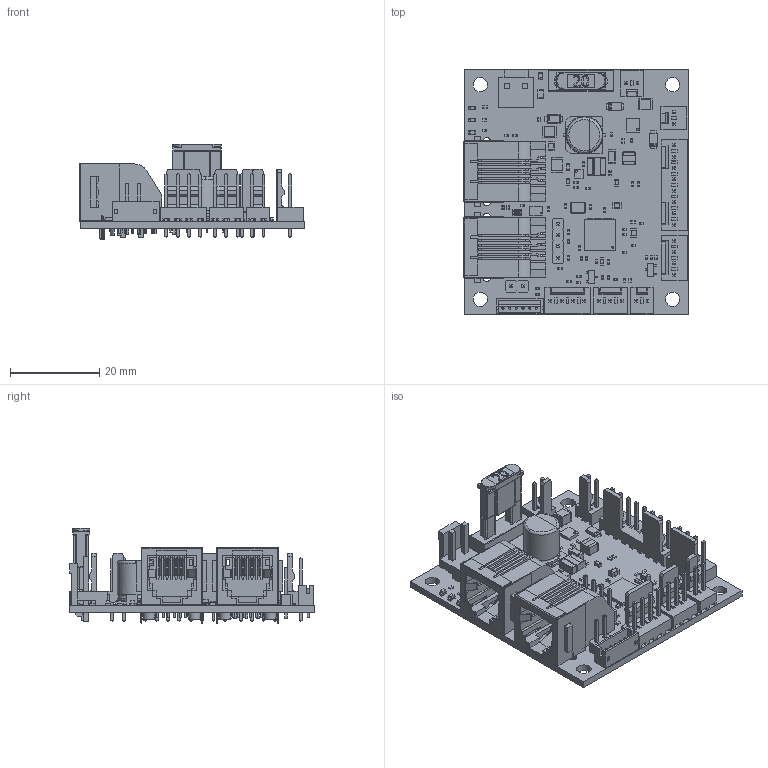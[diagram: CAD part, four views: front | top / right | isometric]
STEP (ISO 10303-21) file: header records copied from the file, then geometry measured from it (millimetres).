
FILE_DESCRIPTION(('KiCad electronic assembly'),'2;1');
FILE_NAME('Duet3_EXB_1XD.step','2020-08-18T18:23:28',('An Author'),( 'A Company'),'Open CASCADE STEP processor 6.9', 'KiCad to STEP converter','Unknown');
FILE_SCHEMA(('AUTOMOTIVE_DESIGN { 1 0 10303 214 1 1 1 1 }'));
Length unit declared in the file: millimetre
Products named in the file (66): Open CASCADE STEP translator 6.9 1; C_0402_1005Metric; SOLID; SOT-23; 744231061_Download_STP_WE-CNSW-0805_rev1; COMPOUND; Molex_KK-254_AE-6410-08A_1x08_P2.54mm_Vertical; Molex_KK-254_AE-6410-03A_1x03_P2.54mm_Vertical; L_0402_1005Metric; IND_TAIYO_NRS4018; DO-219AB; B2P-VH-B-white; R_0402_1005Metric; C_0603_1608Metric; C_1206_3216Metric; R_0805_2012Metric; L_0805_2012Metric; PinHeader_1x04_P2.54mm_Vertical; Mini_Blade_Fuse_Holder; Fuse_MINI_5A; Molex_KK-254_AE-6410-04A_1x04_P2.54mm_Vertical; RJ11_6P6C_half_shield; QFN-48-1EP_7x7mm_P0.5mm_EP5.15x5.15mm; L_1008_2512Metric; Molex_KK-254_AE-6410-02A_1x02_P2.54mm_Vertical; CP_Elec_8x10; LED_0603_1608Metric; DFN-8_2x2mm_P0.5mm; PinHeader_1x02_P2.54mm_Vertical; C_1210_3225Metric; DFN-8-1EP_3x3mm_P0.5mm_EP1.66x2.38mm; DFN-8-1EP_3x2mm_P0.5mm_EP1.3x1.5mm; C_0805_2012Metric; Crystal_SMD_SeikoEpson_FA238V-4Pin_3.2x2.5mm; B6B-ZR
Assembly tree (129 placements, depth 3):
  Open CASCADE STEP translator 6.9 1
    C_0402_1005Metric  x17
      SOLID
    SOT-23  x2
      SOLID
    744231061_Download_STP_WE-CNSW-0805_rev1
      COMPOUND
    Molex_KK-254_AE-6410-08A_1x08_P2.54mm_Vertical
      SOLID
    Molex_KK-254_AE-6410-03A_1x03_P2.54mm_Vertical
      SOLID
    L_0402_1005Metric  x3
      SOLID
    IND_TAIYO_NRS4018
      COMPOUND
    DO-219AB  x3
      COMPOUND
    B2P-VH-B-white
      SOLID
    R_0402_1005Metric  x31
      SOLID
    C_0603_1608Metric  x4
      SOLID
    C_1206_3216Metric
      SOLID
    R_0805_2012Metric
      SOLID
    L_0805_2012Metric
      SOLID
    PinHeader_1x04_P2.54mm_Vertical
      SOLID
    Mini_Blade_Fuse_Holder
      COMPOUND
    Fuse_MINI_5A
      COMPOUND
    Molex_KK-254_AE-6410-04A_1x04_P2.54mm_Vertical  x2
      SOLID
    RJ11_6P6C_half_shield  x2
      COMPOUND
    QFN-48-1EP_7x7mm_P0.5mm_EP5.15x5.15mm
      SOLID
    L_1008_2512Metric
      COMPOUND
    Molex_KK-254_AE-6410-02A_1x02_P2.54mm_Vertical  x3
      SOLID
    CP_Elec_8x10
      SOLID
    LED_0603_1608Metric  x4
      SOLID
    DFN-8_2x2mm_P0.5mm
      SOLID
    PinHeader_1x02_P2.54mm_Vertical
      SOLID
    C_1210_3225Metric  x3
      SOLID
    DFN-8-1EP_3x3mm_P0.5mm_EP1.66x2.38mm
      SOLID
    DFN-8-1EP_3x2mm_P0.5mm_EP1.3x1.5mm
      SOLID
    C_0805_2012Metric  x2
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Bounding box: 50.2 x 55 x 21.46 mm (x, y, z)
Volume: 10282.4 mm3; surface area: 20024.4 mm2
Topology: 141 solids, 141 shells, 5454 faces, 16321 edges, 13361 vertices
Faces by surface type: plane 3951, cylinder 1229, bspline 147, torus 74, sphere 28, cone 24, revolution 1
Full cylindrical faces by diameter (mm): 0.05 x58, 0.2 x1, 0.3 x16, 0.4 x1, 0.5 x2, 0.7 x6, 0.8 x2, 0.89 x10, 1 x6, 1.2 x25, 1.7 x6, 3.2 x8, 8 x2
Entity records: 235777 total; most frequent: CARTESIAN_POINT 54695, DIRECTION 30657, LINE 20485, VECTOR 20485, ORIENTED_EDGE 14972, PCURVE 14972, DEFINITIONAL_REPRESENTATION 14972, EDGE_CURVE 7486
